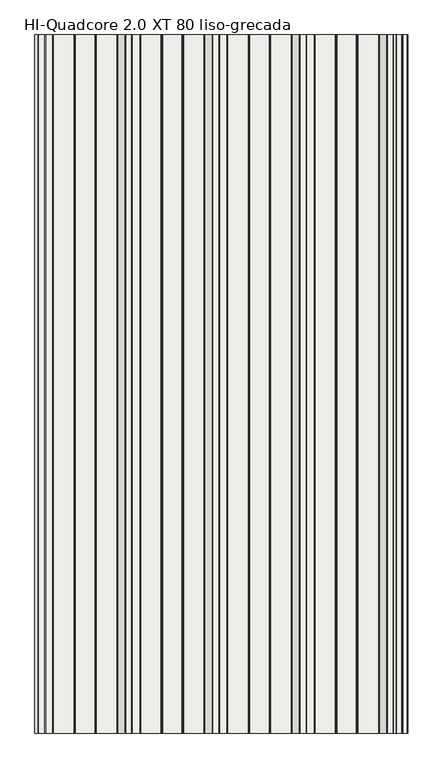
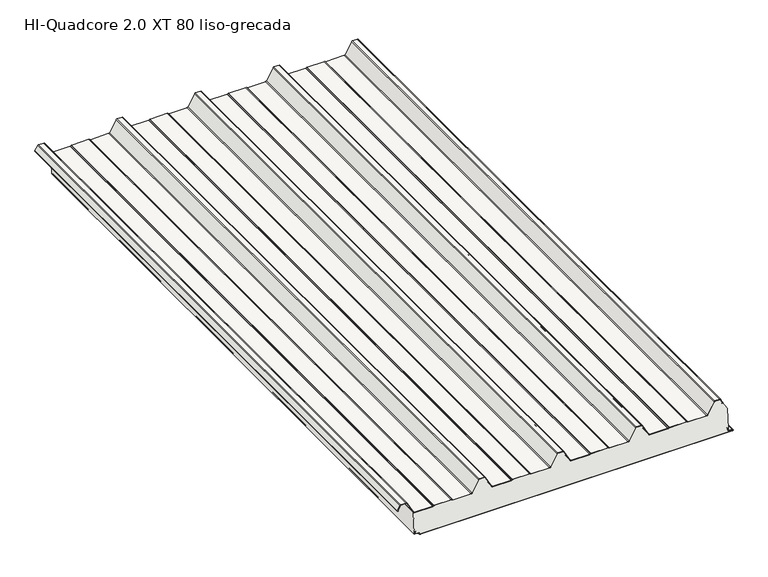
"""IFC4 building model written with IfcOpenShell, lengths in millimetres: slab geometry, HI_QuadCore2.0XT-XT DUAL : HI-Quadcore 2.0 XT 80 liso-grecada."""

from ifc_helpers import new_model, si_unit, point, frame, frame_2d, origin, place, context, project, spatial, polyline, circle_curve, trimmed, segment, composite_curve, outline, extrude, source, transform, mapped, element, save
from ifc_brep_helpers import plane_surface, cylinder_surface, revolved_surface, advanced_brep


def hi_quadcore_2_0_xt_80_liso_grecada_e33320db(model_context):
    return source(origin(), model_context, "Body", "SolidModel", [
        advanced_brep(
        [(1186.4313891, 0.0, 13.3795578), (1185.8456418, 0.0, 11.9654043), (1185.8456037, 0.0, 8.2995811), (1187.6996787, 0.0, 6.328543), (1198.1077232, 0.0, 5.5663871), (1199.9032632, 0.0, 3.5769209), (1199.9033076, 0.0, 1.9756011), (1201.903363, 0.0, -0.0243435), (2197.9162803, 0.0, 0.003269), (2199.9046779, 0.0, 2.0032908), (2199.904653, 0.0, 2.9012893), (2198.0077486, 0.0, 4.8985749), (2186.1928118, 0.0, 5.7933732), (2184.3438482, 0.0, 7.7876066), (2184.3437386, 0.0, 11.7402379), (2183.757913, 0.0, 13.1544352), (2182.3436602, 0.0, 14.5686095), (2181.7779748, 0.0, 14.0029241), (2183.1922433, 0.0, 12.5887341), (2183.5437386, 0.0, 11.7402157), (2183.5438482, 0.0, 7.7875844), (2186.1323972, 0.0, 4.9956577), (2197.958132, 0.0, 4.1000416), (2199.104653, 0.0, 2.9012672), (2199.1046779, 0.0, 2.0032686), (2197.9136554, 0.0, 0.8032689), (1201.9033408, 0.0, 0.7756565), (1200.7033076, 0.0, 1.9756233), (1200.7032632, 0.0, 3.5769431), (1198.1768616, 0.0, 6.3634663), (1187.7581044, 0.0, 7.1264067), (1186.6457428, 0.0, 8.3231689), (1186.6456418, 0.0, 11.965396), (1186.9970902, 0.0, 12.8138881), (1189.1032183, 0.0, 14.920133), (1188.5375329, 0.0, 15.4858184), (1186.4313891, 2000.0, 13.3795578), (1188.5375329, 2000.0, 15.4858184), (1189.1032183, 2000.0, 14.920133), (1186.9970902, 2000.0, 12.8138881), (1186.6456418, 2000.0, 11.965396), (1186.6456037, 2000.0, 8.2995728), (1187.7581044, 2000.0, 7.1264067), (1198.1768616, 2000.0, 6.3634663), (1200.7032632, 2000.0, 3.5769431), (1200.7033076, 2000.0, 1.9756233), (1201.9033408, 2000.0, 0.7756565), (2197.9136554, 2000.0, 0.8032689), (2199.1046779, 2000.0, 2.0032686), (2199.104653, 2000.0, 2.9012672), (2197.958132, 2000.0, 4.1000416), (2186.1323972, 2000.0, 4.9956577), (2183.5438482, 2000.0, 7.7875844), (2183.5437386, 2000.0, 11.7402157), (2183.1922433, 2000.0, 12.5887341), (2181.7779748, 2000.0, 14.0029241), (2182.3436602, 2000.0, 14.5686095), (2183.757913, 2000.0, 13.1544352), (2184.3437386, 2000.0, 11.7402379), (2184.3438482, 2000.0, 7.7876066), (2186.1928118, 2000.0, 5.7933732), (2198.0077486, 2000.0, 4.8985749), (2199.904653, 2000.0, 2.9012893), (2199.9046779, 2000.0, 2.0032908), (2197.9162803, 2000.0, 0.003269), (1201.903363, 2000.0, -0.0243435), (1199.9033076, 2000.0, 1.9756011), (1199.9032632, 2000.0, 3.5769209), (1198.1077232, 2000.0, 5.5663871), (1187.6996787, 2000.0, 6.328543), (1185.8457428, 2000.0, 8.3231467), (1185.8456418, 2000.0, 11.9654043)],
        [
            (0, 1, circle_curve(frame((1187.8456418, 0.0, 11.9653834), z_axis=(0.0, -1.0, 0.0), x_axis=(1.0, 0.0, 0.0)), 2.0)),
            (1, 2),
            (2, 3, circle_curve(frame((1187.8457428, 0.0, 8.3232022), z_axis=(0.0, -1.0, 0.0), x_axis=(1.0, 0.0, 0.0)), 2.0)),
            (3, 4),
            (4, 5, circle_curve(frame((1197.9032632, 0.0, 3.5768655), z_axis=(0.0, 1.0, 0.0), x_axis=(1.0, 0.0, 0.0)), 2.0)),
            (5, 6),
            (6, 7, circle_curve(frame((1201.9033076, 0.0, 1.9756565), z_axis=(0.0, -1.0, 0.0), x_axis=(1.0, 0.0, 0.0)), 2.0)),
            (7, 8),
            (8, 9, circle_curve(frame((2197.9046779, 0.0, 2.0032353), z_axis=(0.0, -1.0, 0.0), x_axis=(1.0, 0.0, 0.0)), 2.0)),
            (9, 10),
            (10, 11, circle_curve(frame((2197.904653, 0.0, 2.9012339), z_axis=(0.0, -1.0, 0.0), x_axis=(1.0, 0.0, 0.0)), 2.0)),
            (11, 12),
            (12, 13, circle_curve(frame((2186.3438482, 0.0, 7.7876621), z_axis=(0.0, 1.0, 0.0), x_axis=(1.0, 0.0, 0.0)), 2.0)),
            (13, 14),
            (14, 15, circle_curve(frame((2182.3437386, 0.0, 11.7401824), z_axis=(0.0, -1.0, 0.0), x_axis=(1.0, 0.0, 0.0)), 2.0)),
            (15, 16),
            (16, 17),
            (17, 18),
            (18, 19, circle_curve(frame((2182.3437386, 0.0, 11.7401824), z_axis=(0.0, 1.0, 0.0), x_axis=(1.0, 0.0, 0.0)), 1.2)),
            (19, 20),
            (20, 21, circle_curve(frame((2186.3438482, 0.0, 7.7876621), z_axis=(0.0, -1.0, 0.0), x_axis=(1.0, 0.0, 0.0)), 2.8)),
            (21, 22),
            (22, 23, circle_curve(frame((2197.904653, 0.0, 2.9012339), z_axis=(0.0, 1.0, 0.0), x_axis=(1.0, 0.0, 0.0)), 1.2)),
            (23, 24),
            (24, 25, circle_curve(frame((2197.9046779, 0.0, 2.0032353), z_axis=(0.0, 1.0, 0.0), x_axis=(1.0, 0.0, 0.0)), 1.2)),
            (25, 26),
            (26, 27, circle_curve(frame((1201.9033076, 0.0, 1.9756565), z_axis=(0.0, 1.0, 0.0), x_axis=(1.0, 0.0, 0.0)), 1.2)),
            (27, 28),
            (28, 29, circle_curve(frame((1197.9032632, 0.0, 3.5768655), z_axis=(0.0, -1.0, 0.0), x_axis=(1.0, 0.0, 0.0)), 2.8)),
            (29, 30),
            (30, 31, circle_curve(frame((1187.8457428, 0.0, 8.3232022), z_axis=(0.0, 1.0, 0.0), x_axis=(1.0, 0.0, 0.0)), 1.2)),
            (31, 32),
            (32, 33, circle_curve(frame((1187.8456418, 0.0, 11.9653834), z_axis=(0.0, 1.0, 0.0), x_axis=(1.0, 0.0, 0.0)), 1.2)),
            (33, 34),
            (34, 35),
            (35, 0),
            (36, 37),
            (37, 38),
            (38, 39),
            (39, 40, circle_curve(frame((1187.8456418, 2000.0, 11.9653834), z_axis=(0.0, -1.0, 0.0), x_axis=(1.0, 0.0, 0.0)), 1.2)),
            (40, 41),
            (41, 42, circle_curve(frame((1187.8457428, 2000.0, 8.3232022), z_axis=(0.0, -1.0, 0.0), x_axis=(1.0, 0.0, 0.0)), 1.2)),
            (42, 43),
            (43, 44, circle_curve(frame((1197.9032632, 2000.0, 3.5768655), z_axis=(0.0, 1.0, 0.0), x_axis=(1.0, 0.0, 0.0)), 2.8)),
            (44, 45),
            (45, 46, circle_curve(frame((1201.9033076, 2000.0, 1.9756565), z_axis=(0.0, -1.0, 0.0), x_axis=(1.0, 0.0, 0.0)), 1.2)),
            (46, 47),
            (47, 48, circle_curve(frame((2197.9046779, 2000.0, 2.0032353), z_axis=(0.0, -1.0, 0.0), x_axis=(1.0, 0.0, 0.0)), 1.2)),
            (48, 49),
            (49, 50, circle_curve(frame((2197.904653, 2000.0, 2.9012339), z_axis=(0.0, -1.0, 0.0), x_axis=(1.0, 0.0, 0.0)), 1.2)),
            (50, 51),
            (51, 52, circle_curve(frame((2186.3438482, 2000.0, 7.7876621), z_axis=(0.0, 1.0, 0.0), x_axis=(1.0, 0.0, 0.0)), 2.8)),
            (52, 53),
            (53, 54, circle_curve(frame((2182.3437386, 2000.0, 11.7401824), z_axis=(0.0, -1.0, 0.0), x_axis=(1.0, 0.0, 0.0)), 1.2)),
            (54, 55),
            (55, 56),
            (56, 57),
            (57, 58, circle_curve(frame((2182.3437386, 2000.0, 11.7401824), z_axis=(0.0, 1.0, 0.0), x_axis=(1.0, 0.0, 0.0)), 2.0)),
            (58, 59),
            (59, 60, circle_curve(frame((2186.3438482, 2000.0, 7.7876621), z_axis=(0.0, -1.0, 0.0), x_axis=(1.0, 0.0, 0.0)), 2.0)),
            (60, 61),
            (61, 62, circle_curve(frame((2197.904653, 2000.0, 2.9012339), z_axis=(0.0, 1.0, 0.0), x_axis=(1.0, 0.0, 0.0)), 2.0)),
            (62, 63),
            (63, 64, circle_curve(frame((2197.9046779, 2000.0, 2.0032353), z_axis=(0.0, 1.0, 0.0), x_axis=(1.0, 0.0, 0.0)), 2.0)),
            (64, 65),
            (65, 66, circle_curve(frame((1201.9033076, 2000.0, 1.9756565), z_axis=(0.0, 1.0, 0.0), x_axis=(1.0, 0.0, 0.0)), 2.0)),
            (66, 67),
            (67, 68, circle_curve(frame((1197.9032632, 2000.0, 3.5768655), z_axis=(0.0, -1.0, 0.0), x_axis=(1.0, 0.0, 0.0)), 2.0)),
            (68, 69),
            (69, 70, circle_curve(frame((1187.8457428, 2000.0, 8.3232022), z_axis=(0.0, 1.0, 0.0), x_axis=(1.0, 0.0, 0.0)), 2.0)),
            (70, 71),
            (71, 36, circle_curve(frame((1187.8456418, 2000.0, 11.9653834), z_axis=(0.0, 1.0, 0.0), x_axis=(1.0, 0.0, 0.0)), 2.0)),
            (0, 36),
            (71, 1),
            (70, 2),
            (69, 3),
            (68, 4),
            (67, 5),
            (66, 6),
            (65, 7),
            (64, 8),
            (63, 9),
            (62, 10),
            (61, 11),
            (60, 12),
            (59, 13),
            (58, 14),
            (57, 15),
            (56, 16),
            (55, 17),
            (54, 18),
            (53, 19),
            (52, 20),
            (51, 21),
            (50, 22),
            (49, 23),
            (48, 24),
            (47, 25),
            (46, 26),
            (45, 27),
            (44, 28),
            (43, 29),
            (42, 30),
            (41, 31),
            (40, 32),
            (39, 33),
            (38, 34),
            (37, 35),
        ],
        [
            plane_surface(frame((1189.8456418, 0.0, 11.9653834), z_axis=(0.0, -1.0, 0.0), x_axis=(0.0, 0.0, 1.0))),
            plane_surface(frame((1189.8456418, 2000.0, 11.9653834), z_axis=(0.0, 1.0, 0.0), x_axis=(0.0, 0.0, -1.0))),
            cylinder_surface(frame((1187.8456418, 2000.0, 11.9653834), z_axis=(0.0, -1.0, 0.0), x_axis=(1.0, 0.0, 0.0)), 2.0),
            plane_surface(frame((1185.8456418, 0.0, 11.9654043), z_axis=(-0.9999999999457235, 0.0, 1.041887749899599e-05), x_axis=(0.0, 1.0, 0.0))),
            cylinder_surface(frame((1187.8457428, 2000.0, 8.3232022), z_axis=(0.0, -1.0, 0.0), x_axis=(1.0, 0.0, 0.0)), 2.0),
            plane_surface(frame((1187.6996787, 0.0, 6.328543), z_axis=(-0.07303203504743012, 0.0, -0.9973295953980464), x_axis=(0.0, 1.0, 0.0))),
            revolved_surface(polyline([(1199.9032632, 2000.0, 3.5768655), (1199.9032632, 0.0, 3.5768655)]), (1197.9032632, 2000.0, 3.5768655), (0.0, 1.0, 0.0)),
            plane_surface(frame((1199.9032632, 0.0, 3.5769209), z_axis=(-0.9999999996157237, 0.0, -2.7722781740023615e-05), x_axis=(0.0, 1.0, 0.0))),
            cylinder_surface(frame((1201.9033076, 2000.0, 1.9756565), z_axis=(0.0, -1.0, 0.0), x_axis=(1.0, 0.0, 0.0)), 2.0),
            plane_surface(frame((1201.903363, 0.0, -0.0243435), z_axis=(2.772298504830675e-05, 0.0, -0.9999999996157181), x_axis=(0.0, 1.0, 0.0))),
            cylinder_surface(frame((2197.9046779, 2000.0, 2.0032353), z_axis=(0.0, -1.0, 0.0), x_axis=(1.0, 0.0, 0.0)), 2.0),
            plane_surface(frame((2199.9046779, 0.0, 2.0032908), z_axis=(0.9999999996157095, 0.0, 2.7723295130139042e-05), x_axis=(0.0, 1.0, 0.0))),
            cylinder_surface(frame((2197.904653, 2000.0, 2.9012339), z_axis=(0.0, -1.0, 0.0), x_axis=(1.0, 0.0, 0.0)), 2.0),
            plane_surface(frame((2198.0077486, 0.0, 4.8985749), z_axis=(0.07551822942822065, 0.0, 0.9971444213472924), x_axis=(0.0, 1.0, 0.0))),
            revolved_surface(polyline([(2188.3438482, 2000.0, 7.7876621), (2188.3438482, 0.0, 7.7876621)]), (2186.3438482, 2000.0, 7.7876621), (0.0, 1.0, 0.0)),
            plane_surface(frame((2184.3438482, 0.0, 7.7876066), z_axis=(0.9999999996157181, 0.0, 2.7722984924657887e-05), x_axis=(0.0, 1.0, 0.0))),
            cylinder_surface(frame((2182.3437386, 2000.0, 11.7401824), z_axis=(0.0, -1.0, 0.0), x_axis=(1.0, 0.0, 0.0)), 2.0),
            plane_surface(frame((2183.757913, 0.0, 13.1544352), z_axis=(0.7070871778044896, 0.0, 0.7071263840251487), x_axis=(0.0, 1.0, 0.0))),
            plane_surface(frame((2182.3436602, 0.0, 14.5686095), z_axis=(-0.7071067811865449, 0.0, 0.7071067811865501), x_axis=(0.0, 1.0, 0.0))),
            plane_surface(frame((2181.7779748, 0.0, 14.0029241), z_axis=(-0.7070871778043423, 0.0, -0.707126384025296), x_axis=(0.0, 1.0, 0.0))),
            revolved_surface(polyline([(2183.5437386, 2000.0, 11.7401824), (2183.5437386, 0.0, 11.7401824)]), (2182.3437386, 2000.0, 11.7401824), (0.0, 1.0, 0.0)),
            plane_surface(frame((2183.5437386, 0.0, 11.7402157), z_axis=(-0.9999999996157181, 0.0, -2.7722985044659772e-05), x_axis=(0.0, 1.0, 0.0))),
            cylinder_surface(frame((2186.3438482, 2000.0, 7.7876621), z_axis=(0.0, -1.0, 0.0), x_axis=(1.0, 0.0, 0.0)), 2.8),
            plane_surface(frame((2186.1323972, 0.0, 4.9956577), z_axis=(-0.07551822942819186, 0.0, -0.9971444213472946), x_axis=(0.0, 1.0, 0.0))),
            revolved_surface(polyline([(2199.104653, 2000.0, 2.9012339), (2199.104653, 0.0, 2.9012339)]), (2197.904653, 2000.0, 2.9012339), (0.0, 1.0, 0.0)),
            plane_surface(frame((2199.104653, 0.0, 2.9012672), z_axis=(-0.9999999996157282, 0.0, -2.7722622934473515e-05), x_axis=(0.0, 1.0, 0.0))),
            revolved_surface(polyline([(2199.1046779, 2000.0, 2.0032353), (2199.1046779, 0.0, 2.0032353)]), (2197.9046779, 2000.0, 2.0032353), (0.0, 1.0, 0.0)),
            plane_surface(frame((2197.9136554, 0.0, 0.8032689), z_axis=(-2.7722985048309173e-05, 0.0, 0.9999999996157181), x_axis=(0.0, 1.0, 0.0))),
            revolved_surface(polyline([(1203.1033076, 2000.0, 1.9756565), (1203.1033076, 0.0, 1.9756565)]), (1201.9033076, 2000.0, 1.9756565), (0.0, 1.0, 0.0)),
            plane_surface(frame((1200.7033076, 0.0, 1.9756233), z_axis=(0.9999999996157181, 0.0, 2.7722983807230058e-05), x_axis=(0.0, 1.0, 0.0))),
            cylinder_surface(frame((1197.9032632, 2000.0, 3.5768655), z_axis=(0.0, -1.0, 0.0), x_axis=(1.0, 0.0, 0.0)), 2.8),
            plane_surface(frame((1198.1768616, 0.0, 6.3634663), z_axis=(0.0730320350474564, 0.0, 0.9973295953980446), x_axis=(0.0, 1.0, 0.0))),
            revolved_surface(polyline([(1189.0457428, 2000.0, 8.3232022), (1189.0457428, 0.0, 8.3232022)]), (1187.8457428, 2000.0, 8.3232022), (0.0, 1.0, 0.0)),
            plane_surface(frame((1186.6456037, 0.0, 8.2995728), z_axis=(0.9999999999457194, 0.0, -1.0419274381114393e-05), x_axis=(0.0, 1.0, 0.0))),
            revolved_surface(polyline([(1189.0456418, 2000.0, 11.9653834), (1189.0456418, 0.0, 11.9653834)]), (1187.8456418, 2000.0, 11.9653834), (0.0, 1.0, 0.0)),
            plane_surface(frame((1186.9970902, 0.0, 12.8138881), z_axis=(0.7071263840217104, 0.0, -0.7070871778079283), x_axis=(0.0, 1.0, 0.0))),
            plane_surface(frame((1189.1032183, 0.0, 14.920133), z_axis=(0.7071067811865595, 0.0, 0.7071067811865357), x_axis=(0.0, 1.0, 0.0))),
            plane_surface(frame((1188.5375329, 0.0, 15.4858184), z_axis=(-0.7071263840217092, 0.0, 0.7070871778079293), x_axis=(0.0, 1.0, 0.0))),
        ],
        [
            (0, [[1, 2, 3, 4, 5, 6, 7, 8, 9, 10, 11, 12, 13, 14, 15, 16, 17, 18, 19, 20, 21, 22, 23, 24, 25, 26, 27, 28, 29, 30, 31, 32, 33, 34, 35, 36]]),
            (1, [[37, 38, 39, 40, 41, 42, 43, 44, 45, 46, 47, 48, 49, 50, 51, 52, 53, 54, 55, 56, 57, 58, 59, 60, 61, 62, 63, 64, 65, 66, 67, 68, 69, 70, 71, 72]]),
            (2, [[-1, 73, -72, 74]]),
            (3, [[-2, -74, -71, 75]]),
            (4, [[-3, -75, -70, 76]]),
            (5, [[-4, -76, -69, 77]]),
            (6, [[-5, -77, -68, 78]]),
            (7, [[-6, -78, -67, 79]]),
            (8, [[-7, -79, -66, 80]]),
            (9, [[-8, -80, -65, 81]]),
            (10, [[-9, -81, -64, 82]]),
            (11, [[-10, -82, -63, 83]]),
            (12, [[-11, -83, -62, 84]]),
            (13, [[-12, -84, -61, 85]]),
            (14, [[-13, -85, -60, 86]]),
            (15, [[-14, -86, -59, 87]]),
            (16, [[-15, -87, -58, 88]]),
            (17, [[-16, -88, -57, 89]]),
            (18, [[-17, -89, -56, 90]]),
            (19, [[-18, -90, -55, 91]]),
            (20, [[-19, -91, -54, 92]]),
            (21, [[-20, -92, -53, 93]]),
            (22, [[-21, -93, -52, 94]]),
            (23, [[-22, -94, -51, 95]]),
            (24, [[-23, -95, -50, 96]]),
            (25, [[-24, -96, -49, 97]]),
            (26, [[-25, -97, -48, 98]]),
            (27, [[-26, -98, -47, 99]]),
            (28, [[-27, -99, -46, 100]]),
            (29, [[-28, -100, -45, 101]]),
            (30, [[-29, -101, -44, 102]]),
            (31, [[-30, -102, -43, 103]]),
            (32, [[-31, -103, -42, 104]]),
            (33, [[-32, -104, -41, 105]]),
            (34, [[-33, -105, -40, 106]]),
            (35, [[-34, -106, -39, 107]]),
            (36, [[-35, -107, -38, 108]]),
            (37, [[-36, -108, -37, -73]]),
        ],
    ),
        extrude(outline(composite_curve([segment(polyline([(118.1649405, 1138.5141429), (103.6579587, 1130.3539656)]), True, "CONTINUOUS"), segment(trimmed(circle_curve(frame_2d((103.0451321, 1131.443435)), 1.25), [point((103.6579587, 1130.3539656))], [point((102.689225, 1132.6416963))], False, "CARTESIAN"), True, "CONTINUOUS"), segment(polyline([(102.689225, 1132.6416963), (105.7359115, 1133.437141), (105.9380053, 1132.663088), (102.9074492, 1131.8718547)]), True, "CONTINUOUS"), segment(trimmed(circle_curve(frame_2d((103.0451321, 1131.443435)), 0.45), [point((102.9074492, 1131.8718547))], [point((103.2657497, 1131.051226))], True, "CARTESIAN"), True, "CONTINUOUS"), segment(polyline([(103.2657497, 1131.051226), (117.7727315, 1139.2114033)]), True, "CONTINUOUS"), segment(trimmed(circle_curve(frame_2d((116.4, 1141.6518148)), 2.8), [point((117.7727315, 1139.2114033))], [point((119.2, 1141.6518148))], True, "CARTESIAN"), True, "CONTINUOUS"), segment(polyline([(119.2, 1141.6518148), (119.2, 1158.9311117)]), True, "CONTINUOUS"), segment(trimmed(circle_curve(frame_2d((116.4, 1158.9311117)), 2.8), [point((119.2, 1158.9311117))], [point((117.5457267, 1161.4859719))], True, "CARTESIAN"), True, "CONTINUOUS"), segment(polyline([(117.5457267, 1161.4859719), (81.2048889, 1181.3052775)]), True, "CONTINUOUS"), segment(trimmed(circle_curve(frame_2d((83.0, 1184.6545425)), 3.8), [point((81.2048889, 1181.3052775))], [point((79.2, 1184.6545425))], False, "CARTESIAN"), True, "CONTINUOUS"), segment(polyline([(79.2, 1184.6545425), (79.2, 1242.4489557)]), True, "CONTINUOUS"), segment(trimmed(circle_curve(frame_2d((83.0, 1242.4489557)), 3.8), [point((79.2, 1242.4489557))], [point((79.6973596, 1244.328468))], False, "CARTESIAN"), True, "CONTINUOUS"), segment(polyline([(79.6973596, 1244.328468), (80.912055, 1246.4629056)]), True, "CONTINUOUS"), segment(trimmed(circle_curve(frame_2d((79.0, 1247.5510443)), 2.2), [point((80.912055, 1246.4629056))], [point((81.2, 1247.5510443))], True, "CARTESIAN"), True, "CONTINUOUS"), segment(polyline([(81.2, 1247.5510443), (81.2, 1302.4489557)]), True, "CONTINUOUS"), segment(trimmed(circle_curve(frame_2d((79.0, 1302.4489557)), 2.2), [point((81.2, 1302.4489557))], [point((80.912055, 1303.5370944))], True, "CARTESIAN"), True, "CONTINUOUS"), segment(polyline([(80.912055, 1303.5370944), (79.6973596, 1305.671532)]), True, "CONTINUOUS"), segment(trimmed(circle_curve(frame_2d((83.0, 1307.5510443)), 3.8), [point((79.6973596, 1305.671532))], [point((79.2, 1307.5510443))], False, "CARTESIAN"), True, "CONTINUOUS"), segment(polyline([(79.2, 1307.5510443), (79.2, 1365.7454575)]), True, "CONTINUOUS"), segment(trimmed(circle_curve(frame_2d((83.0, 1365.7454575)), 3.8), [point((79.2, 1365.7454575))], [point((81.1370073, 1369.0574446))], False, "CARTESIAN"), True, "CONTINUOUS"), segment(polyline([(81.1370073, 1369.0574446), (118.0785747, 1389.8370763)]), True, "CONTINUOUS"), segment(trimmed(circle_curve(frame_2d((117.0, 1391.7545425)), 2.2), [point((118.0785747, 1389.8370763))], [point((119.2, 1391.7545425))], True, "CARTESIAN"), True, "CONTINUOUS"), segment(polyline([(119.2, 1391.7545425), (119.2, 1408.2454575)]), True, "CONTINUOUS"), segment(trimmed(circle_curve(frame_2d((117.0, 1408.2454575)), 2.2), [point((119.2, 1408.2454575))], [point((118.0785747, 1410.1629237))], True, "CARTESIAN"), True, "CONTINUOUS"), segment(polyline([(118.0785747, 1410.1629237), (81.1370073, 1430.9425554)]), True, "CONTINUOUS"), segment(trimmed(circle_curve(frame_2d((83.0, 1434.2545425)), 3.8), [point((81.1370073, 1430.9425554))], [point((79.2, 1434.2545425))], False, "CARTESIAN"), True, "CONTINUOUS"), segment(polyline([(79.2, 1434.2545425), (79.2, 1492.4489557)]), True, "CONTINUOUS"), segment(trimmed(circle_curve(frame_2d((83.0, 1492.4489557)), 3.8), [point((79.2, 1492.4489557))], [point((79.6973596, 1494.328468))], False, "CARTESIAN"), True, "CONTINUOUS"), segment(polyline([(79.6973596, 1494.328468), (80.912055, 1496.4629056)]), True, "CONTINUOUS"), segment(trimmed(circle_curve(frame_2d((79.0, 1497.5510443)), 2.2), [point((80.912055, 1496.4629056))], [point((81.2, 1497.5510443))], True, "CARTESIAN"), True, "CONTINUOUS"), segment(polyline([(81.2, 1497.5510443), (81.2, 1552.4489557)]), True, "CONTINUOUS"), segment(trimmed(circle_curve(frame_2d((79.0, 1552.4489557)), 2.2), [point((81.2, 1552.4489557))], [point((80.912055, 1553.5370944))], True, "CARTESIAN"), True, "CONTINUOUS"), segment(polyline([(80.912055, 1553.5370944), (79.6973596, 1555.671532)]), True, "CONTINUOUS"), segment(trimmed(circle_curve(frame_2d((83.0, 1557.5510443)), 3.8), [point((79.6973596, 1555.671532))], [point((79.2, 1557.5510443))], False, "CARTESIAN"), True, "CONTINUOUS"), segment(polyline([(79.2, 1557.5510443), (79.2, 1615.7454575)]), True, "CONTINUOUS"), segment(trimmed(circle_curve(frame_2d((83.0, 1615.7454575)), 3.8), [point((79.2, 1615.7454575))], [point((81.1370073, 1619.0574446))], False, "CARTESIAN"), True, "CONTINUOUS"), segment(polyline([(81.1370073, 1619.0574446), (118.0785747, 1639.8370763)]), True, "CONTINUOUS"), segment(trimmed(circle_curve(frame_2d((117.0, 1641.7545425)), 2.2), [point((118.0785747, 1639.8370763))], [point((119.2, 1641.7545425))], True, "CARTESIAN"), True, "CONTINUOUS"), segment(polyline([(119.2, 1641.7545425), (119.2, 1658.2454575)]), True, "CONTINUOUS"), segment(trimmed(circle_curve(frame_2d((117.0, 1658.2454575)), 2.2), [point((119.2, 1658.2454575))], [point((118.0785747, 1660.1629237))], True, "CARTESIAN"), True, "CONTINUOUS"), segment(polyline([(118.0785747, 1660.1629237), (81.1370073, 1680.9425554)]), True, "CONTINUOUS"), segment(trimmed(circle_curve(frame_2d((83.0, 1684.2545425)), 3.8), [point((81.1370073, 1680.9425554))], [point((79.2, 1684.2545425))], False, "CARTESIAN"), True, "CONTINUOUS"), segment(polyline([(79.2, 1684.2545425), (79.2, 1742.4489557)]), True, "CONTINUOUS"), segment(trimmed(circle_curve(frame_2d((83.0, 1742.4489557)), 3.8), [point((79.2, 1742.4489557))], [point((79.6973596, 1744.328468))], False, "CARTESIAN"), True, "CONTINUOUS"), segment(polyline([(79.6973596, 1744.328468), (80.912055, 1746.4629056)]), True, "CONTINUOUS"), segment(trimmed(circle_curve(frame_2d((79.0, 1747.5510443)), 2.2), [point((80.912055, 1746.4629056))], [point((81.2, 1747.5510443))], True, "CARTESIAN"), True, "CONTINUOUS"), segment(polyline([(81.2, 1747.5510443), (81.2, 1802.4489557)]), True, "CONTINUOUS"), segment(trimmed(circle_curve(frame_2d((79.0, 1802.4489557)), 2.2), [point((81.2, 1802.4489557))], [point((80.912055, 1803.5370944))], True, "CARTESIAN"), True, "CONTINUOUS"), segment(polyline([(80.912055, 1803.5370944), (79.6973596, 1805.671532)]), True, "CONTINUOUS"), segment(trimmed(circle_curve(frame_2d((83.0, 1807.5510443)), 3.8), [point((79.6973596, 1805.671532))], [point((79.2, 1807.5510443))], False, "CARTESIAN"), True, "CONTINUOUS"), segment(polyline([(79.2, 1807.5510443), (79.2, 1865.7454575)]), True, "CONTINUOUS"), segment(trimmed(circle_curve(frame_2d((83.0, 1865.7454575)), 3.8), [point((79.2, 1865.7454575))], [point((81.1370073, 1869.0574446))], False, "CARTESIAN"), True, "CONTINUOUS"), segment(polyline([(81.1370073, 1869.0574446), (118.0785747, 1889.8370763)]), True, "CONTINUOUS"), segment(trimmed(circle_curve(frame_2d((117.0, 1891.7545425)), 2.2), [point((118.0785747, 1889.8370763))], [point((119.2, 1891.7545425))], True, "CARTESIAN"), True, "CONTINUOUS"), segment(polyline([(119.2, 1891.7545425), (119.2, 1908.2454575)]), True, "CONTINUOUS"), segment(trimmed(circle_curve(frame_2d((117.0, 1908.2454575)), 2.2), [point((119.2, 1908.2454575))], [point((118.0785747, 1910.1629237))], True, "CARTESIAN"), True, "CONTINUOUS"), segment(polyline([(118.0785747, 1910.1629237), (81.1370073, 1930.9425554)]), True, "CONTINUOUS"), segment(trimmed(circle_curve(frame_2d((83.0, 1934.2545425)), 3.8), [point((81.1370073, 1930.9425554))], [point((79.2, 1934.2545425))], False, "CARTESIAN"), True, "CONTINUOUS"), segment(polyline([(79.2, 1934.2545425), (79.2, 1992.4489557)]), True, "CONTINUOUS"), segment(trimmed(circle_curve(frame_2d((83.0, 1992.4489557)), 3.8), [point((79.2, 1992.4489557))], [point((79.6973596, 1994.328468))], False, "CARTESIAN"), True, "CONTINUOUS"), segment(polyline([(79.6973596, 1994.328468), (80.912055, 1996.4629056)]), True, "CONTINUOUS"), segment(trimmed(circle_curve(frame_2d((79.0, 1997.5510443)), 2.2), [point((80.912055, 1996.4629056))], [point((81.2, 1997.5510443))], True, "CARTESIAN"), True, "CONTINUOUS"), segment(polyline([(81.2, 1997.5510443), (81.2, 2052.4489557)]), True, "CONTINUOUS"), segment(trimmed(circle_curve(frame_2d((79.0, 2052.4489557)), 2.2), [point((81.2, 2052.4489557))], [point((80.912055, 2053.5370944))], True, "CARTESIAN"), True, "CONTINUOUS"), segment(polyline([(80.912055, 2053.5370944), (79.6973596, 2055.671532)]), True, "CONTINUOUS"), segment(trimmed(circle_curve(frame_2d((83.0, 2057.5510443)), 3.8), [point((79.6973596, 2055.671532))], [point((79.2, 2057.5510443))], False, "CARTESIAN"), True, "CONTINUOUS"), segment(polyline([(79.2, 2057.5510443), (79.2, 2116.4208923)]), True, "CONTINUOUS"), segment(trimmed(circle_curve(frame_2d((83.0, 2116.4208923)), 3.8), [point((79.2, 2116.4208923))], [point((81.1583504, 2119.7447946))], False, "CARTESIAN"), True, "CONTINUOUS"), segment(polyline([(81.1583504, 2119.7447946), (118.0662182, 2140.1940602)]), True, "CONTINUOUS"), segment(trimmed(circle_curve(frame_2d((117.0, 2142.1184247)), 2.2), [point((118.0662182, 2140.1940602))], [point((119.2, 2142.1184247))], True, "CARTESIAN"), True, "CONTINUOUS"), segment(polyline([(119.2, 2142.1184247), (119.2, 2157.4945491)]), True, "CONTINUOUS"), segment(trimmed(circle_curve(frame_2d((117.0, 2157.4945491)), 2.2), [point((119.2, 2157.4945491))], [point((118.0785747, 2159.4120152))], True, "CARTESIAN"), True, "CONTINUOUS"), segment(polyline([(118.0785747, 2159.4120152), (107.5275176, 2165.3469849)]), True, "CONTINUOUS"), segment(trimmed(circle_curve(frame_2d((106.9392041, 2164.3010942)), 1.2), [point((107.5275176, 2165.3469849))], [point((106.3392623, 2165.3403583))], True, "CARTESIAN"), True, "CONTINUOUS"), segment(polyline([(106.3392623, 2165.3403583), (104.7281681, 2164.4103128), (104.3282068, 2165.1031555), (105.939301, 2166.033201)]), True, "CONTINUOUS"), segment(trimmed(circle_curve(frame_2d((106.9392041, 2164.3010942)), 2.0), [point((105.939301, 2166.033201))], [point((107.9197266, 2166.0442453))], False, "CARTESIAN"), True, "CONTINUOUS"), segment(polyline([(107.9197266, 2166.0442453), (118.4707837, 2160.1092757)]), True, "CONTINUOUS"), segment(trimmed(circle_curve(frame_2d((117.0, 2157.4945491)), 3.0), [point((118.4707837, 2160.1092757))], [point((120.0, 2157.4945491))], False, "CARTESIAN"), True, "CONTINUOUS"), segment(polyline([(120.0, 2157.4945491), (120.0, 2142.1184247)]), True, "CONTINUOUS"), segment(trimmed(circle_curve(frame_2d((117.0, 2142.1184247)), 3.0), [point((120.0, 2142.1184247))], [point((118.4539339, 2139.4942913))], False, "CARTESIAN"), True, "CONTINUOUS"), segment(polyline([(118.4539339, 2139.4942913), (81.5460661, 2119.0450257)]), True, "CONTINUOUS"), segment(trimmed(circle_curve(frame_2d((83.0, 2116.4208923)), 3.0), [point((81.5460661, 2119.0450257))], [point((80.0, 2116.4208923))], True, "CARTESIAN"), True, "CONTINUOUS"), segment(polyline([(80.0, 2116.4208923), (80.0, 2057.5510443)]), True, "CONTINUOUS"), segment(trimmed(circle_curve(frame_2d((83.0, 2057.5510443)), 3.0), [point((80.0, 2057.5510443))], [point((80.3926523, 2056.0672188))], True, "CARTESIAN"), True, "CONTINUOUS"), segment(polyline([(80.3926523, 2056.0672188), (81.6073477, 2053.9327812)]), True, "CONTINUOUS"), segment(trimmed(circle_curve(frame_2d((79.0, 2052.4489557)), 3.0), [point((81.6073477, 2053.9327812))], [point((82.0, 2052.4489557))], False, "CARTESIAN"), True, "CONTINUOUS"), segment(polyline([(82.0, 2052.4489557), (82.0, 1997.5510443)]), True, "CONTINUOUS"), segment(trimmed(circle_curve(frame_2d((79.0, 1997.5510443)), 3.0), [point((82.0, 1997.5510443))], [point((81.6073477, 1996.0672188))], False, "CARTESIAN"), True, "CONTINUOUS"), segment(polyline([(81.6073477, 1996.0672188), (80.3926523, 1993.9327812)]), True, "CONTINUOUS"), segment(trimmed(circle_curve(frame_2d((83.0, 1992.4489557)), 3.0), [point((80.3926523, 1993.9327812))], [point((80.0, 1992.4489557))], True, "CARTESIAN"), True, "CONTINUOUS"), segment(polyline([(80.0, 1992.4489557), (80.0, 1934.2545425)]), True, "CONTINUOUS"), segment(trimmed(circle_curve(frame_2d((83.0, 1934.2545425)), 3.0), [point((80.0, 1934.2545425))], [point((81.5292163, 1931.6398158))], True, "CARTESIAN"), True, "CONTINUOUS"), segment(polyline([(81.5292163, 1931.6398158), (118.4707837, 1910.8601842)]), True, "CONTINUOUS"), segment(trimmed(circle_curve(frame_2d((117.0, 1908.2454575)), 3.0), [point((118.4707837, 1910.8601842))], [point((120.0, 1908.2454575))], False, "CARTESIAN"), True, "CONTINUOUS"), segment(polyline([(120.0, 1908.2454575), (120.0, 1891.7545425)]), True, "CONTINUOUS"), segment(trimmed(circle_curve(frame_2d((117.0, 1891.7545425)), 3.0), [point((120.0, 1891.7545425))], [point((118.4707837, 1889.1398158))], False, "CARTESIAN"), True, "CONTINUOUS"), segment(polyline([(118.4707837, 1889.1398158), (81.5292163, 1868.3601842)]), True, "CONTINUOUS"), segment(trimmed(circle_curve(frame_2d((83.0, 1865.7454575)), 3.0), [point((81.5292163, 1868.3601842))], [point((80.0, 1865.7454575))], True, "CARTESIAN"), True, "CONTINUOUS"), segment(polyline([(80.0, 1865.7454575), (80.0, 1807.5510443)]), True, "CONTINUOUS"), segment(trimmed(circle_curve(frame_2d((83.0, 1807.5510443)), 3.0), [point((80.0, 1807.5510443))], [point((80.3926523, 1806.0672188))], True, "CARTESIAN"), True, "CONTINUOUS"), segment(polyline([(80.3926523, 1806.0672188), (81.6073477, 1803.9327812)]), True, "CONTINUOUS"), segment(trimmed(circle_curve(frame_2d((79.0, 1802.4489557)), 3.0), [point((81.6073477, 1803.9327812))], [point((82.0, 1802.4489557))], False, "CARTESIAN"), True, "CONTINUOUS"), segment(polyline([(82.0, 1802.4489557), (82.0, 1747.5510443)]), True, "CONTINUOUS"), segment(trimmed(circle_curve(frame_2d((79.0, 1747.5510443)), 3.0), [point((82.0, 1747.5510443))], [point((81.6073477, 1746.0672188))], False, "CARTESIAN"), True, "CONTINUOUS"), segment(polyline([(81.6073477, 1746.0672188), (80.3926523, 1743.9327812)]), True, "CONTINUOUS"), segment(trimmed(circle_curve(frame_2d((83.0, 1742.4489557)), 3.0), [point((80.3926523, 1743.9327812))], [point((80.0, 1742.4489557))], True, "CARTESIAN"), True, "CONTINUOUS"), segment(polyline([(80.0, 1742.4489557), (80.0, 1684.2545425)]), True, "CONTINUOUS"), segment(trimmed(circle_curve(frame_2d((83.0, 1684.2545425)), 3.0), [point((80.0, 1684.2545425))], [point((81.5292163, 1681.6398158))], True, "CARTESIAN"), True, "CONTINUOUS"), segment(polyline([(81.5292163, 1681.6398158), (118.4707837, 1660.8601842)]), True, "CONTINUOUS"), segment(trimmed(circle_curve(frame_2d((117.0, 1658.2454575)), 3.0), [point((118.4707837, 1660.8601842))], [point((120.0, 1658.2454575))], False, "CARTESIAN"), True, "CONTINUOUS"), segment(polyline([(120.0, 1658.2454575), (120.0, 1641.7545425)]), True, "CONTINUOUS"), segment(trimmed(circle_curve(frame_2d((117.0, 1641.7545425)), 3.0), [point((120.0, 1641.7545425))], [point((118.4707837, 1639.1398158))], False, "CARTESIAN"), True, "CONTINUOUS"), segment(polyline([(118.4707837, 1639.1398158), (81.5292163, 1618.3601842)]), True, "CONTINUOUS"), segment(trimmed(circle_curve(frame_2d((83.0, 1615.7454575)), 3.0), [point((81.5292163, 1618.3601842))], [point((80.0, 1615.7454575))], True, "CARTESIAN"), True, "CONTINUOUS"), segment(polyline([(80.0, 1615.7454575), (80.0, 1557.5510443)]), True, "CONTINUOUS"), segment(trimmed(circle_curve(frame_2d((83.0, 1557.5510443)), 3.0), [point((80.0, 1557.5510443))], [point((80.3926523, 1556.0672188))], True, "CARTESIAN"), True, "CONTINUOUS"), segment(polyline([(80.3926523, 1556.0672188), (81.6073477, 1553.9327812)]), True, "CONTINUOUS"), segment(trimmed(circle_curve(frame_2d((79.0, 1552.4489557)), 3.0), [point((81.6073477, 1553.9327812))], [point((82.0, 1552.4489557))], False, "CARTESIAN"), True, "CONTINUOUS"), segment(polyline([(82.0, 1552.4489557), (82.0, 1497.5510443)]), True, "CONTINUOUS"), segment(trimmed(circle_curve(frame_2d((79.0, 1497.5510443)), 3.0), [point((82.0, 1497.5510443))], [point((81.6073477, 1496.0672188))], False, "CARTESIAN"), True, "CONTINUOUS"), segment(polyline([(81.6073477, 1496.0672188), (80.3926523, 1493.9327812)]), True, "CONTINUOUS"), segment(trimmed(circle_curve(frame_2d((83.0, 1492.4489557)), 3.0), [point((80.3926523, 1493.9327812))], [point((80.0, 1492.4489557))], True, "CARTESIAN"), True, "CONTINUOUS"), segment(polyline([(80.0, 1492.4489557), (80.0, 1434.2545425)]), True, "CONTINUOUS"), segment(trimmed(circle_curve(frame_2d((83.0, 1434.2545425)), 3.0), [point((80.0, 1434.2545425))], [point((81.5292163, 1431.6398158))], True, "CARTESIAN"), True, "CONTINUOUS"), segment(polyline([(81.5292163, 1431.6398158), (118.4707837, 1410.8601842)]), True, "CONTINUOUS"), segment(trimmed(circle_curve(frame_2d((117.0, 1408.2454575)), 3.0), [point((118.4707837, 1410.8601842))], [point((120.0, 1408.2454575))], False, "CARTESIAN"), True, "CONTINUOUS"), segment(polyline([(120.0, 1408.2454575), (120.0, 1391.7545425)]), True, "CONTINUOUS"), segment(trimmed(circle_curve(frame_2d((117.0, 1391.7545425)), 3.0), [point((120.0, 1391.7545425))], [point((118.4707837, 1389.1398158))], False, "CARTESIAN"), True, "CONTINUOUS"), segment(polyline([(118.4707837, 1389.1398158), (81.5292163, 1368.3601842)]), True, "CONTINUOUS"), segment(trimmed(circle_curve(frame_2d((83.0, 1365.7454575)), 3.0), [point((81.5292163, 1368.3601842))], [point((80.0, 1365.7454575))], True, "CARTESIAN"), True, "CONTINUOUS"), segment(polyline([(80.0, 1365.7454575), (80.0, 1307.5510443)]), True, "CONTINUOUS"), segment(trimmed(circle_curve(frame_2d((83.0, 1307.5510443)), 3.0), [point((80.0, 1307.5510443))], [point((80.3926523, 1306.0672188))], True, "CARTESIAN"), True, "CONTINUOUS"), segment(polyline([(80.3926523, 1306.0672188), (81.6073477, 1303.9327812)]), True, "CONTINUOUS"), segment(trimmed(circle_curve(frame_2d((79.0, 1302.4489557)), 3.0), [point((81.6073477, 1303.9327812))], [point((82.0, 1302.4489557))], False, "CARTESIAN"), True, "CONTINUOUS"), segment(polyline([(82.0, 1302.4489557), (82.0, 1247.5510443)]), True, "CONTINUOUS"), segment(trimmed(circle_curve(frame_2d((79.0, 1247.5510443)), 3.0), [point((82.0, 1247.5510443))], [point((81.6073477, 1246.0672188))], False, "CARTESIAN"), True, "CONTINUOUS"), segment(polyline([(81.6073477, 1246.0672188), (80.3926523, 1243.9327812)]), True, "CONTINUOUS"), segment(trimmed(circle_curve(frame_2d((83.0, 1242.4489557)), 3.0), [point((80.3926523, 1243.9327812))], [point((80.0, 1242.4489557))], True, "CARTESIAN"), True, "CONTINUOUS"), segment(polyline([(80.0, 1242.4489557), (80.0, 1184.6545425)]), True, "CONTINUOUS"), segment(trimmed(circle_curve(frame_2d((83.0, 1184.6545425)), 3.0), [point((80.0, 1184.6545425))], [point((81.5852209, 1182.0090935))], True, "CARTESIAN"), True, "CONTINUOUS"), segment(polyline([(81.5852209, 1182.0090935), (117.9031732, 1162.2022691)]), True, "CONTINUOUS"), segment(trimmed(circle_curve(frame_2d((116.4, 1158.9311117)), 3.6), [point((117.9031732, 1162.2022691))], [point((120.0, 1158.9311117))], False, "CARTESIAN"), True, "CONTINUOUS"), segment(polyline([(120.0, 1158.9311117), (120.0, 1141.6518148)]), True, "CONTINUOUS"), segment(trimmed(circle_curve(frame_2d((116.4, 1141.6518148)), 3.6), [point((120.0, 1141.6518148))], [point((118.1649405, 1138.5141429))], False, "CARTESIAN"), True, "CONTINUOUS")], self_intersect=False)), frame((0.0, 0.0, 0.0), z_axis=(0.0, 1.0, 0.0), x_axis=(0.0, 0.0, 1.0)), (0.0, 0.0, 1.0), 2000.0),
        extrude(outline(composite_curve([segment(polyline([(81.2667387, 2181.036551), (107.9197266, 2166.0442453)]), True, "CONTINUOUS"), segment(trimmed(circle_curve(frame_2d((106.9392041, 2164.3010942)), 2.0), [point((107.9197266, 2166.0442453))], [point((105.939301, 2166.033201))], True, "CARTESIAN"), True, "CONTINUOUS"), segment(polyline([(105.939301, 2166.033201), (104.3282068, 2165.1031555), (104.7281681, 2164.4103128), (106.3392623, 2165.3403583)]), True, "CONTINUOUS"), segment(trimmed(circle_curve(frame_2d((106.9392041, 2164.3010942)), 1.2), [point((106.3392623, 2165.3403583))], [point((107.5275176, 2165.3469849))], False, "CARTESIAN"), True, "CONTINUOUS"), segment(polyline([(107.5275176, 2165.3469849), (118.0785747, 2159.4120152)]), True, "CONTINUOUS"), segment(trimmed(circle_curve(frame_2d((117.0, 2157.4945491)), 2.2), [point((118.0785747, 2159.4120152))], [point((119.2, 2157.4945491))], False, "CARTESIAN"), True, "CONTINUOUS"), segment(polyline([(119.2, 2157.4945491), (119.2, 2142.1184247)]), True, "CONTINUOUS"), segment(trimmed(circle_curve(frame_2d((117.0, 2142.1184247)), 2.2), [point((119.2, 2142.1184247))], [point((118.0662182, 2140.1940602))], False, "CARTESIAN"), True, "CONTINUOUS"), segment(polyline([(118.0662182, 2140.1940602), (81.1583504, 2119.7447946)]), True, "CONTINUOUS"), segment(trimmed(circle_curve(frame_2d((83.0, 2116.4208923)), 3.8), [point((81.1583504, 2119.7447946))], [point((79.2, 2116.4208923))], True, "CARTESIAN"), True, "CONTINUOUS"), segment(polyline([(79.2, 2116.4208923), (79.2, 2057.5510443)]), True, "CONTINUOUS"), segment(trimmed(circle_curve(frame_2d((83.0, 2057.5510443)), 3.8), [point((79.2, 2057.5510443))], [point((79.6973596, 2055.671532))], True, "CARTESIAN"), True, "CONTINUOUS"), segment(polyline([(79.6973596, 2055.671532), (80.912055, 2053.5370944)]), True, "CONTINUOUS"), segment(trimmed(circle_curve(frame_2d((79.0, 2052.4489557)), 2.2), [point((80.912055, 2053.5370944))], [point((81.2, 2052.4489557))], False, "CARTESIAN"), True, "CONTINUOUS"), segment(polyline([(81.2, 2052.4489557), (81.2, 1997.5510443)]), True, "CONTINUOUS"), segment(trimmed(circle_curve(frame_2d((79.0, 1997.5510443)), 2.2), [point((81.2, 1997.5510443))], [point((80.912055, 1996.4629056))], False, "CARTESIAN"), True, "CONTINUOUS"), segment(polyline([(80.912055, 1996.4629056), (79.6973596, 1994.328468)]), True, "CONTINUOUS"), segment(trimmed(circle_curve(frame_2d((83.0, 1992.4489557)), 3.8), [point((79.6973596, 1994.328468))], [point((79.2, 1992.4489557))], True, "CARTESIAN"), True, "CONTINUOUS"), segment(polyline([(79.2, 1992.4489557), (79.2, 1934.2545425)]), True, "CONTINUOUS"), segment(trimmed(circle_curve(frame_2d((83.0, 1934.2545425)), 3.8), [point((79.2, 1934.2545425))], [point((81.1370073, 1930.9425554))], True, "CARTESIAN"), True, "CONTINUOUS"), segment(polyline([(81.1370073, 1930.9425554), (118.0785747, 1910.1629237)]), True, "CONTINUOUS"), segment(trimmed(circle_curve(frame_2d((117.0, 1908.2454575)), 2.2), [point((118.0785747, 1910.1629237))], [point((119.2, 1908.2454575))], False, "CARTESIAN"), True, "CONTINUOUS"), segment(polyline([(119.2, 1908.2454575), (119.2, 1891.7545425)]), True, "CONTINUOUS"), segment(trimmed(circle_curve(frame_2d((117.0, 1891.7545425)), 2.2), [point((119.2, 1891.7545425))], [point((118.0785747, 1889.8370763))], False, "CARTESIAN"), True, "CONTINUOUS"), segment(polyline([(118.0785747, 1889.8370763), (81.1370073, 1869.0574446)]), True, "CONTINUOUS"), segment(trimmed(circle_curve(frame_2d((83.0, 1865.7454575)), 3.8), [point((81.1370073, 1869.0574446))], [point((79.2, 1865.7454575))], True, "CARTESIAN"), True, "CONTINUOUS"), segment(polyline([(79.2, 1865.7454575), (79.2, 1807.5510443)]), True, "CONTINUOUS"), segment(trimmed(circle_curve(frame_2d((83.0, 1807.5510443)), 3.8), [point((79.2, 1807.5510443))], [point((79.6973596, 1805.671532))], True, "CARTESIAN"), True, "CONTINUOUS"), segment(polyline([(79.6973596, 1805.671532), (80.912055, 1803.5370944)]), True, "CONTINUOUS"), segment(trimmed(circle_curve(frame_2d((79.0, 1802.4489557)), 2.2), [point((80.912055, 1803.5370944))], [point((81.2, 1802.4489557))], False, "CARTESIAN"), True, "CONTINUOUS"), segment(polyline([(81.2, 1802.4489557), (81.2, 1747.5510443)]), True, "CONTINUOUS"), segment(trimmed(circle_curve(frame_2d((79.0, 1747.5510443)), 2.2), [point((81.2, 1747.5510443))], [point((80.912055, 1746.4629056))], False, "CARTESIAN"), True, "CONTINUOUS"), segment(polyline([(80.912055, 1746.4629056), (79.6973596, 1744.328468)]), True, "CONTINUOUS"), segment(trimmed(circle_curve(frame_2d((83.0, 1742.4489557)), 3.8), [point((79.6973596, 1744.328468))], [point((79.2, 1742.4489557))], True, "CARTESIAN"), True, "CONTINUOUS"), segment(polyline([(79.2, 1742.4489557), (79.2, 1684.2545425)]), True, "CONTINUOUS"), segment(trimmed(circle_curve(frame_2d((83.0, 1684.2545425)), 3.8), [point((79.2, 1684.2545425))], [point((81.1370073, 1680.9425554))], True, "CARTESIAN"), True, "CONTINUOUS"), segment(polyline([(81.1370073, 1680.9425554), (118.0785747, 1660.1629237)]), True, "CONTINUOUS"), segment(trimmed(circle_curve(frame_2d((117.0, 1658.2454575)), 2.2), [point((118.0785747, 1660.1629237))], [point((119.2, 1658.2454575))], False, "CARTESIAN"), True, "CONTINUOUS"), segment(polyline([(119.2, 1658.2454575), (119.2, 1641.7545425)]), True, "CONTINUOUS"), segment(trimmed(circle_curve(frame_2d((117.0, 1641.7545425)), 2.2), [point((119.2, 1641.7545425))], [point((118.0785747, 1639.8370763))], False, "CARTESIAN"), True, "CONTINUOUS"), segment(polyline([(118.0785747, 1639.8370763), (81.1370073, 1619.0574446)]), True, "CONTINUOUS"), segment(trimmed(circle_curve(frame_2d((83.0, 1615.7454575)), 3.8), [point((81.1370073, 1619.0574446))], [point((79.2, 1615.7454575))], True, "CARTESIAN"), True, "CONTINUOUS"), segment(polyline([(79.2, 1615.7454575), (79.2, 1557.5510443)]), True, "CONTINUOUS"), segment(trimmed(circle_curve(frame_2d((83.0, 1557.5510443)), 3.8), [point((79.2, 1557.5510443))], [point((79.6973596, 1555.671532))], True, "CARTESIAN"), True, "CONTINUOUS"), segment(polyline([(79.6973596, 1555.671532), (80.912055, 1553.5370944)]), True, "CONTINUOUS"), segment(trimmed(circle_curve(frame_2d((79.0, 1552.4489557)), 2.2), [point((80.912055, 1553.5370944))], [point((81.2, 1552.4489557))], False, "CARTESIAN"), True, "CONTINUOUS"), segment(polyline([(81.2, 1552.4489557), (81.2, 1497.5510443)]), True, "CONTINUOUS"), segment(trimmed(circle_curve(frame_2d((79.0, 1497.5510443)), 2.2), [point((81.2, 1497.5510443))], [point((80.912055, 1496.4629056))], False, "CARTESIAN"), True, "CONTINUOUS"), segment(polyline([(80.912055, 1496.4629056), (79.6973596, 1494.328468)]), True, "CONTINUOUS"), segment(trimmed(circle_curve(frame_2d((83.0, 1492.4489557)), 3.8), [point((79.6973596, 1494.328468))], [point((79.2, 1492.4489557))], True, "CARTESIAN"), True, "CONTINUOUS"), segment(polyline([(79.2, 1492.4489557), (79.2, 1434.2545425)]), True, "CONTINUOUS"), segment(trimmed(circle_curve(frame_2d((83.0, 1434.2545425)), 3.8), [point((79.2, 1434.2545425))], [point((81.1370073, 1430.9425554))], True, "CARTESIAN"), True, "CONTINUOUS"), segment(polyline([(81.1370073, 1430.9425554), (118.0785747, 1410.1629237)]), True, "CONTINUOUS"), segment(trimmed(circle_curve(frame_2d((117.0, 1408.2454575)), 2.2), [point((118.0785747, 1410.1629237))], [point((119.2, 1408.2454575))], False, "CARTESIAN"), True, "CONTINUOUS"), segment(polyline([(119.2, 1408.2454575), (119.2, 1391.7545425)]), True, "CONTINUOUS"), segment(trimmed(circle_curve(frame_2d((117.0, 1391.7545425)), 2.2), [point((119.2, 1391.7545425))], [point((118.0785747, 1389.8370763))], False, "CARTESIAN"), True, "CONTINUOUS"), segment(polyline([(118.0785747, 1389.8370763), (81.1370073, 1369.0574446)]), True, "CONTINUOUS"), segment(trimmed(circle_curve(frame_2d((83.0, 1365.7454575)), 3.8), [point((81.1370073, 1369.0574446))], [point((79.2, 1365.7454575))], True, "CARTESIAN"), True, "CONTINUOUS"), segment(polyline([(79.2, 1365.7454575), (79.2, 1307.5510443)]), True, "CONTINUOUS"), segment(trimmed(circle_curve(frame_2d((83.0, 1307.5510443)), 3.8), [point((79.2, 1307.5510443))], [point((79.6973596, 1305.671532))], True, "CARTESIAN"), True, "CONTINUOUS"), segment(polyline([(79.6973596, 1305.671532), (80.912055, 1303.5370944)]), True, "CONTINUOUS"), segment(trimmed(circle_curve(frame_2d((79.0, 1302.4489557)), 2.2), [point((80.912055, 1303.5370944))], [point((81.2, 1302.4489557))], False, "CARTESIAN"), True, "CONTINUOUS"), segment(polyline([(81.2, 1302.4489557), (81.2, 1247.5510443)]), True, "CONTINUOUS"), segment(trimmed(circle_curve(frame_2d((79.0, 1247.5510443)), 2.2), [point((81.2, 1247.5510443))], [point((80.912055, 1246.4629056))], False, "CARTESIAN"), True, "CONTINUOUS"), segment(polyline([(80.912055, 1246.4629056), (79.6973596, 1244.328468)]), True, "CONTINUOUS"), segment(trimmed(circle_curve(frame_2d((83.0, 1242.4489557)), 3.8), [point((79.6973596, 1244.328468))], [point((79.2, 1242.4489557))], True, "CARTESIAN"), True, "CONTINUOUS"), segment(polyline([(79.2, 1242.4489557), (79.2, 1184.6545425)]), True, "CONTINUOUS"), segment(trimmed(circle_curve(frame_2d((83.0, 1184.6545425)), 3.8), [point((79.2, 1184.6545425))], [point((81.2048889, 1181.3052775))], True, "CARTESIAN"), True, "CONTINUOUS"), segment(polyline([(81.2048889, 1181.3052775), (7.0308362, 1184.4622222), (7.2414513, 1185.8457731), (11.9758655, 1185.8456417)]), True, "CONTINUOUS"), segment(trimmed(circle_curve(frame_2d((11.9759203, 1187.8456416)), 1.9999999), [point((11.9758655, 1185.8456417))], [point((13.3900948, 1186.4313891))], True, "CARTESIAN"), True, "CONTINUOUS"), segment(polyline([(13.3900948, 1186.4313891), (15.4963556, 1188.5375329), (14.9306702, 1189.1032183), (12.8244256, 1186.9970899)]), True, "CONTINUOUS"), segment(trimmed(circle_curve(frame_2d((11.9759203, 1187.8456416)), 1.2000005), [point((12.8244256, 1186.9970899))], [point((11.9773876, 1186.645642))], False, "CARTESIAN"), True, "CONTINUOUS"), segment(polyline([(11.9773876, 1186.645642), (8.3337067, 1186.6457428)]), True, "CONTINUOUS"), segment(trimmed(circle_curve(frame_2d((8.3337399, 1187.8457428)), 1.2), [point((8.3337067, 1186.6457428))], [point((7.1369444, 1187.7581044))], False, "CARTESIAN"), True, "CONTINUOUS"), segment(polyline([(7.1369444, 1187.7581044), (6.3740035, 1198.1768616)]), True, "CONTINUOUS"), segment(trimmed(circle_curve(frame_2d((3.5874027, 1197.9032632)), 2.8), [point((6.3740035, 1198.1768616))], [point((3.5874804, 1200.7032632))], True, "CARTESIAN"), True, "CONTINUOUS"), segment(polyline([(3.5874804, 1200.7032632), (1.9756233, 1200.7033079)]), True, "CONTINUOUS"), segment(trimmed(circle_curve(frame_2d((1.9756562, 1201.9033076)), 1.1999997), [point((1.9756233, 1200.7033079))], [point((0.7756565, 1201.9033408))], False, "CARTESIAN"), True, "CONTINUOUS"), segment(polyline([(0.7756565, 1201.9033408), (0.8032689, 2197.9136557)]), True, "CONTINUOUS"), segment(trimmed(circle_curve(frame_2d((2.0032353, 2197.9046782)), 1.2), [point((0.8032689, 2197.9136557))], [point((2.0032686, 2199.1046782))], False, "CARTESIAN"), True, "CONTINUOUS"), segment(polyline([(2.0032686, 2199.1046782), (2.9118044, 2199.104653)]), True, "CONTINUOUS"), segment(trimmed(circle_curve(frame_2d((2.9117711, 2197.9046533)), 1.1999997), [point((2.9118044, 2199.104653))], [point((4.1105786, 2197.9581323))], False, "CARTESIAN"), True, "CONTINUOUS"), segment(polyline([(4.1105786, 2197.9581323), (5.0061949, 2186.1323972)]), True, "CONTINUOUS"), segment(trimmed(circle_curve(frame_2d((7.7981993, 2186.3438482)), 2.8), [point((5.0061949, 2186.1323972))], [point((7.7981217, 2183.5438482))], True, "CARTESIAN"), True, "CONTINUOUS"), segment(polyline([(7.7981217, 2183.5438482), (11.7460458, 2183.5455151)]), True, "CONTINUOUS"), segment(trimmed(circle_curve(frame_2d((11.7411592, 2182.3429645)), 1.2025605), [point((11.7460458, 2183.5455151))], [point((12.5937174, 2183.1910778))], False, "CARTESIAN"), True, "CONTINUOUS"), segment(polyline([(12.5937174, 2183.1910778), (14.0134457, 2181.7779905), (14.5791311, 2182.3436759), (13.1649724, 2183.757913), (81.2667387, 2181.036551)]), True, "CONTINUOUS")], self_intersect=False)), frame((0.0, 0.0, 0.0), z_axis=(0.0, 1.0, 0.0), x_axis=(0.0, 0.0, 1.0)), (0.0, 0.0, 1.0), 2000.0),
    ])


if __name__ == "__main__":
    model = new_model("IFC4")
    model_context = context("Model", 3, world=origin())
    ifc_project = project(units=[si_unit("LENGTHUNIT", "METRE", prefix="MILLI")], contexts=[model_context])
    site = spatial("IfcSite", under=ifc_project)
    building = spatial("IfcBuilding", under=site)
    placement = place(None, origin())
    hi_quadcore_2_0_xt_80_liso_grecada_shape = hi_quadcore_2_0_xt_80_liso_grecada_e33320db(model_context)
    element("IfcSlab", 1, ObjectType="HI_QuadCore2.0XT-XT DUAL : HI-Quadcore 2.0 XT 80 liso-grecada", at=placement, inside=building, context=model_context, shape_type="MappedRepresentation", body=[
        mapped(hi_quadcore_2_0_xt_80_liso_grecada_shape, transform((0.0, 0.0, 0.0), x_axis=(1.0, 0.0, 0.0), y_axis=(0.0, 1.0, 0.0), z_axis=(0.0, 0.0, 1.0))),
    ])
    save(model, "model.ifc")
